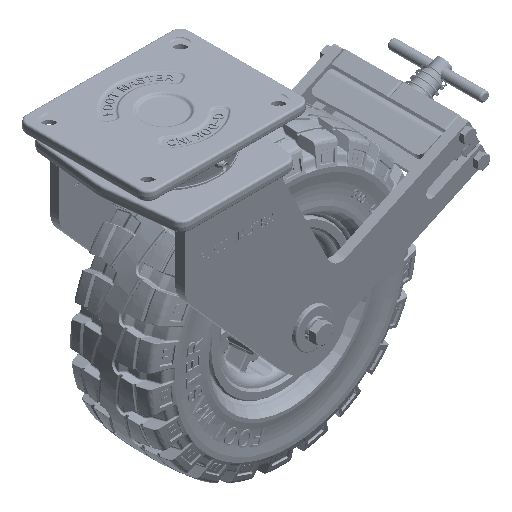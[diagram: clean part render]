
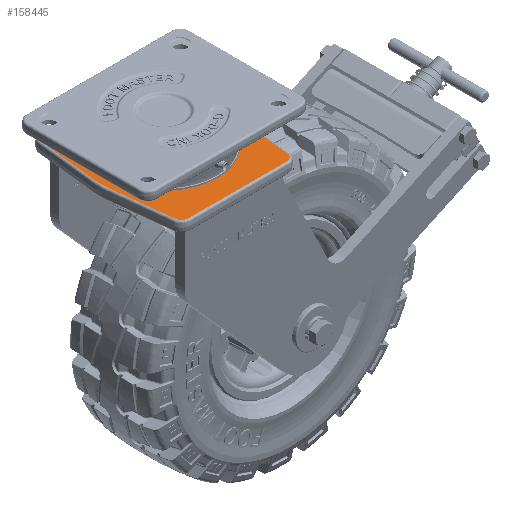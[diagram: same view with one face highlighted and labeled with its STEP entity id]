
A CAD part, isometric view. The second image highlights one B-rep face of the part: STEP entity #158445.
In plain terms, the highlighted planar face has unit normal (0, 0, 1).
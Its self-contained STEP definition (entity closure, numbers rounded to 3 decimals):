
#6546=FACE_BOUND('',#43100,.T.);
#20704=PLANE('',#168387);
#31820=ELLIPSE('',#168347,8.055,8.);
#31823=ELLIPSE('',#168360,8.055,8.);
#31825=ELLIPSE('',#168365,8.055,8.);
#31827=ELLIPSE('',#168376,8.055,8.);
#33050=FACE_OUTER_BOUND('',#43099,.T.);
#43099=EDGE_LOOP('',(#114389,#114390,#114391,#114392,#114393,#114394,#114395,
#114396,#114397,#114398,#114399,#114400));
#43100=EDGE_LOOP('',(#114401,#114402));
#54106=LINE('',#217309,#59101);
#54108=LINE('',#217321,#59103);
#54110=LINE('',#217362,#59105);
#54112=LINE('',#217403,#59107);
#54114=LINE('',#217415,#59109);
#54116=LINE('',#217453,#59111);
#59101=VECTOR('',#182631,10.);
#59103=VECTOR('',#182645,10.);
#59105=VECTOR('',#182657,10.);
#59107=VECTOR('',#182669,10.);
#59109=VECTOR('',#182683,10.);
#59111=VECTOR('',#182693,10.);
#62390=CIRCLE('',#168355,67.686);
#62398=CIRCLE('',#168371,67.686);
#62402=CIRCLE('',#168388,57.);
#62403=CIRCLE('',#168389,57.);
#71072=VERTEX_POINT('',#217297);
#71073=VERTEX_POINT('',#217299);
#71075=VERTEX_POINT('',#217305);
#71077=VERTEX_POINT('',#217311);
#71079=VERTEX_POINT('',#217317);
#71081=VERTEX_POINT('',#217352);
#71083=VERTEX_POINT('',#217358);
#71085=VERTEX_POINT('',#217393);
#71087=VERTEX_POINT('',#217399);
#71089=VERTEX_POINT('',#217405);
#71091=VERTEX_POINT('',#217411);
#71093=VERTEX_POINT('',#217446);
#71102=VERTEX_POINT('',#217481);
#71103=VERTEX_POINT('',#217482);
#86857=EDGE_CURVE('',#71072,#71073,#31820,.T.);
#86862=EDGE_CURVE('',#71073,#71075,#54106,.T.);
#86865=EDGE_CURVE('',#71075,#71077,#62390,.T.);
#86868=EDGE_CURVE('',#71077,#71079,#54108,.T.);
#86871=EDGE_CURVE('',#71079,#71081,#31823,.T.);
#86874=EDGE_CURVE('',#71081,#71083,#54110,.T.);
#86877=EDGE_CURVE('',#71083,#71085,#31825,.T.);
#86880=EDGE_CURVE('',#71085,#71087,#54112,.T.);
#86883=EDGE_CURVE('',#71087,#71089,#62398,.T.);
#86886=EDGE_CURVE('',#71089,#71091,#54114,.T.);
#86889=EDGE_CURVE('',#71091,#71093,#31827,.T.);
#86891=EDGE_CURVE('',#71093,#71072,#54116,.T.);
#86905=EDGE_CURVE('',#71102,#71103,#62402,.T.);
#86906=EDGE_CURVE('',#71103,#71102,#62403,.T.);
#114389=ORIENTED_EDGE('',*,*,#86857,.F.);
#114390=ORIENTED_EDGE('',*,*,#86891,.F.);
#114391=ORIENTED_EDGE('',*,*,#86889,.F.);
#114392=ORIENTED_EDGE('',*,*,#86886,.F.);
#114393=ORIENTED_EDGE('',*,*,#86883,.F.);
#114394=ORIENTED_EDGE('',*,*,#86880,.F.);
#114395=ORIENTED_EDGE('',*,*,#86877,.F.);
#114396=ORIENTED_EDGE('',*,*,#86874,.F.);
#114397=ORIENTED_EDGE('',*,*,#86871,.F.);
#114398=ORIENTED_EDGE('',*,*,#86868,.F.);
#114399=ORIENTED_EDGE('',*,*,#86865,.F.);
#114400=ORIENTED_EDGE('',*,*,#86862,.F.);
#114401=ORIENTED_EDGE('',*,*,#86905,.T.);
#114402=ORIENTED_EDGE('',*,*,#86906,.T.);
#158445=ADVANCED_FACE('',(#33050,#6546),#20704,.T.);
#168347=AXIS2_PLACEMENT_3D('',#217300,#182620,#182621);
#168355=AXIS2_PLACEMENT_3D('',#217315,#182638,#182639);
#168360=AXIS2_PLACEMENT_3D('',#217356,#182650,#182651);
#168365=AXIS2_PLACEMENT_3D('',#217397,#182662,#182663);
#168371=AXIS2_PLACEMENT_3D('',#217409,#182676,#182677);
#168376=AXIS2_PLACEMENT_3D('',#217450,#182688,#182689);
#168387=AXIS2_PLACEMENT_3D('',#217480,#182722,#182723);
#168388=AXIS2_PLACEMENT_3D('',#217483,#182724,#182725);
#168389=AXIS2_PLACEMENT_3D('',#217484,#182726,#182727);
#182620=DIRECTION('center_axis',(0.,0.,
-1.));
#182621=DIRECTION('ref_axis',(0.667,0.745,0.));
#182631=DIRECTION('',(0.11,-0.994,0.));
#182638=DIRECTION('center_axis',(0.,0.,
-1.));
#182639=DIRECTION('ref_axis',(1.,0.,0.));
#182645=DIRECTION('',(-0.11,-0.994,0.));
#182650=DIRECTION('center_axis',(0.,0.,
-1.));
#182651=DIRECTION('ref_axis',(0.667,-0.745,0.));
#182657=DIRECTION('',(-1.,0.,0.));
#182662=DIRECTION('center_axis',(0.,0.,
-1.));
#182663=DIRECTION('ref_axis',(-0.667,-0.745,0.));
#182669=DIRECTION('',(-0.11,0.994,0.));
#182676=DIRECTION('center_axis',(0.,0.,
-1.));
#182677=DIRECTION('ref_axis',(-1.,0.,0.));
#182683=DIRECTION('',(0.11,0.994,0.));
#182688=DIRECTION('center_axis',(0.,0.,
-1.));
#182689=DIRECTION('ref_axis',(-0.667,0.745,0.));
#182693=DIRECTION('',(1.,0.,0.));
#182722=DIRECTION('center_axis',(0.,0.,
1.));
#182723=DIRECTION('ref_axis',(0.,-1.,0.));
#182724=DIRECTION('center_axis',(0.,0.,
-1.));
#182725=DIRECTION('ref_axis',(1.,0.,0.));
#182726=DIRECTION('center_axis',(0.,0.,
-1.));
#182727=DIRECTION('ref_axis',(1.,0.,0.));
#217297=CARTESIAN_POINT('',(52.287,78.686,-30.));
#217299=CARTESIAN_POINT('',(60.209,71.589,-30.));
#217300=CARTESIAN_POINT('Origin',(52.233,70.656,-30.));
#217305=CARTESIAN_POINT('',(67.279,7.412,-30.));
#217309=CARTESIAN_POINT('',(63.869,38.365,-30.));
#217311=CARTESIAN_POINT('',(67.279,-7.412,-30.));
#217315=CARTESIAN_POINT('Origin',(0.,0.,
-30.));
#217317=CARTESIAN_POINT('',(60.209,-71.589,-30.));
#217321=CARTESIAN_POINT('',(67.909,-1.698,-30.));
#217352=CARTESIAN_POINT('',(52.287,-78.686,-30.));
#217356=CARTESIAN_POINT('Origin',(52.233,-70.656,-30.));
#217358=CARTESIAN_POINT('',(-52.287,-78.686,-30.));
#217362=CARTESIAN_POINT('',(83.25,-78.686,-30.));
#217393=CARTESIAN_POINT('',(-60.209,-71.589,-30.));
#217397=CARTESIAN_POINT('Origin',(-52.233,-70.656,-30.));
#217399=CARTESIAN_POINT('',(-67.279,-7.412,-30.));
#217403=CARTESIAN_POINT('',(-62.61,-49.794,-30.));
#217405=CARTESIAN_POINT('',(-67.279,7.412,-30.));
#217409=CARTESIAN_POINT('Origin',(0.,0.,
-30.));
#217411=CARTESIAN_POINT('',(-60.209,71.589,-30.));
#217415=CARTESIAN_POINT('',(-66.65,13.126,-30.));
#217446=CARTESIAN_POINT('',(-52.287,78.686,-30.));
#217450=CARTESIAN_POINT('Origin',(-52.233,70.656,-30.));
#217453=CARTESIAN_POINT('',(21.75,78.686,-30.));
#217480=CARTESIAN_POINT('Origin',(105.,0.,
-30.));
#217481=CARTESIAN_POINT('',(57.,0.,-30.));
#217482=CARTESIAN_POINT('',(-57.,0.,-30.));
#217483=CARTESIAN_POINT('Origin',(0.,0.,
-30.));
#217484=CARTESIAN_POINT('Origin',(0.,0.,
-30.));
